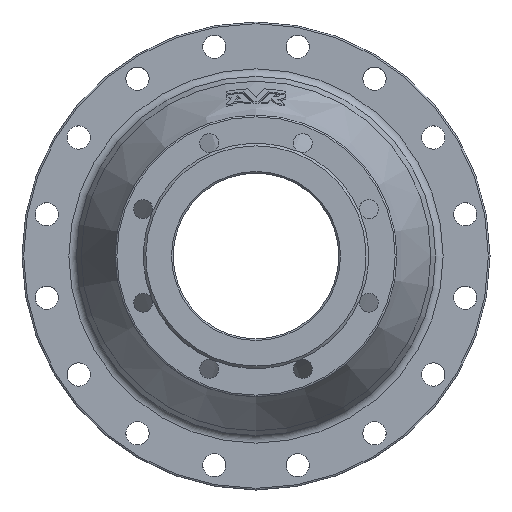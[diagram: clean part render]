
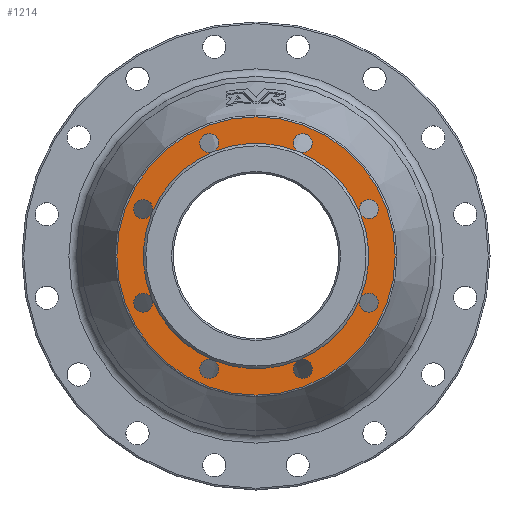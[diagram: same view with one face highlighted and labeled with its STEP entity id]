
A CAD part, left-side view. The second image highlights one B-rep face of the part: STEP entity #1214.
In plain terms, the highlighted planar face has unit normal (-1, 0, 0).
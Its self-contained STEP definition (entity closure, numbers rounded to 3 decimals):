
#25 = DIRECTION ( 'NONE',  ( 0., 0., -1. ) ) ;
#55 = CARTESIAN_POINT ( 'NONE',  ( 3., 0., 0. ) ) ;
#76 = CARTESIAN_POINT ( 'NONE',  ( 3., 136.272, -56.446 ) ) ;
#97 = AXIS2_PLACEMENT_3D ( 'NONE', #55, #1060, #2074 ) ;
#125 = VERTEX_POINT ( 'NONE', #3068 ) ;
#131 = DIRECTION ( 'NONE',  ( -1., 0., 0. ) ) ;
#137 = EDGE_CURVE ( 'NONE', #125, #125, #2382, .T. ) ;
#165 = DIRECTION ( 'NONE',  ( -1., 0., 0. ) ) ;
#218 = VERTEX_POINT ( 'NONE', #1384 ) ;
#232 = ORIENTED_EDGE ( 'NONE', *, *, #1318, .T. ) ;
#245 = EDGE_CURVE ( 'NONE', #1006, #1006, #2228, .T. ) ;
#248 = DIRECTION ( 'NONE',  ( -1., 0., 0. ) ) ;
#259 = DIRECTION ( 'NONE',  ( 1., 0., 0. ) ) ;
#285 = EDGE_CURVE ( 'NONE', #850, #218, #1400, .T. ) ;
#339 = EDGE_CURVE ( 'NONE', #1452, #1452, #1556, .T. ) ;
#344 = DIRECTION ( 'NONE',  ( 0., 0., 1. ) ) ;
#359 = CARTESIAN_POINT ( 'NONE',  ( 3., 0., 0. ) ) ;
#365 = AXIS2_PLACEMENT_3D ( 'NONE', #3055, #778, #1049 ) ;
#368 = AXIS2_PLACEMENT_3D ( 'NONE', #359, #656, #344 ) ;
#375 = CARTESIAN_POINT ( 'NONE',  ( 3., -136.272, -56.446 ) ) ;
#401 = AXIS2_PLACEMENT_3D ( 'NONE', #2546, #1000, #1044 ) ;
#432 = CARTESIAN_POINT ( 'NONE',  ( 3., -125.648, 52.045 ) ) ;
#542 = DIRECTION ( 'NONE',  ( 1., 0., 0. ) ) ;
#565 = CARTESIAN_POINT ( 'NONE',  ( 3., 0., 0. ) ) ;
#582 = AXIS2_PLACEMENT_3D ( 'NONE', #3096, #542, #1302 ) ;
#622 = DIRECTION ( 'NONE',  ( 0., 0., 1. ) ) ;
#642 = DIRECTION ( 'NONE',  ( -1., 0., 0. ) ) ;
#656 = DIRECTION ( 'NONE',  ( -1., 0., 0. ) ) ;
#711 = AXIS2_PLACEMENT_3D ( 'NONE', #2080, #2129, #1833 ) ;
#778 = DIRECTION ( 'NONE',  ( 1., 0., 0. ) ) ;
#817 = EDGE_CURVE ( 'NONE', #1518, #1518, #2014, .T. ) ;
#828 = ORIENTED_EDGE ( 'NONE', *, *, #245, .T. ) ;
#829 = DIRECTION ( 'NONE',  ( 0., 0., -1. ) ) ;
#850 = VERTEX_POINT ( 'NONE', #1386 ) ;
#895 = CIRCLE ( 'NONE', #365, 11.5 ) ;
#914 = EDGE_CURVE ( 'NONE', #1001, #1001, #1688, .T. ) ;
#928 = CIRCLE ( 'NONE', #2616, 11.5 ) ;
#958 = AXIS2_PLACEMENT_3D ( 'NONE', #76, #1083, #829 ) ;
#977 = DIRECTION ( 'NONE',  ( -1., 0., 0. ) ) ;
#1000 = DIRECTION ( 'NONE',  ( -1., 0., 0. ) ) ;
#1001 = VERTEX_POINT ( 'NONE', #2232 ) ;
#1006 = VERTEX_POINT ( 'NONE', #2490 ) ;
#1044 = DIRECTION ( 'NONE',  ( 0., 0., 1. ) ) ;
#1049 = DIRECTION ( 'NONE',  ( 0., 0., -1. ) ) ;
#1060 = DIRECTION ( 'NONE',  ( -1., 0., 0. ) ) ;
#1066 = AXIS2_PLACEMENT_3D ( 'NONE', #1198, #259, #3030 ) ;
#1083 = DIRECTION ( 'NONE',  ( 1., 0., 0. ) ) ;
#1161 = DIRECTION ( 'NONE',  ( 1., 0., 0. ) ) ;
#1198 = CARTESIAN_POINT ( 'NONE',  ( 3., -56.446, 136.272 ) ) ;
#1214 = ADVANCED_FACE ( 'NONE', ( #1281, #2054 ), #2039, .F. ) ;
#1220 = CIRCLE ( 'NONE', #2123, 136. ) ;
#1250 = EDGE_CURVE ( 'NONE', #2985, #1006, #2794, .T. ) ;
#1261 = AXIS2_PLACEMENT_3D ( 'NONE', #1407, #1161, #2399 ) ;
#1281 = FACE_OUTER_BOUND ( 'NONE', #1961, .T. ) ;
#1302 = DIRECTION ( 'NONE',  ( 0., 0., -1. ) ) ;
#1318 = EDGE_CURVE ( 'NONE', #850, #850, #1362, .T. ) ;
#1346 = CARTESIAN_POINT ( 'NONE',  ( 3., 52.045, -125.648 ) ) ;
#1362 = CIRCLE ( 'NONE', #1261, 11.5 ) ;
#1373 = ORIENTED_EDGE ( 'NONE', *, *, #1250, .F. ) ;
#1384 = CARTESIAN_POINT ( 'NONE',  ( 3., 125.648, 52.045 ) ) ;
#1386 = CARTESIAN_POINT ( 'NONE',  ( 3., 52.045, 125.648 ) ) ;
#1400 = CIRCLE ( 'NONE', #401, 136. ) ;
#1401 = CARTESIAN_POINT ( 'NONE',  ( 3., 56.446, -136.272 ) ) ;
#1402 = CARTESIAN_POINT ( 'NONE',  ( 3., 0., 0. ) ) ;
#1407 = CARTESIAN_POINT ( 'NONE',  ( 3., 56.446, 136.272 ) ) ;
#1441 = EDGE_CURVE ( 'NONE', #1518, #2097, #2318, .T. ) ;
#1452 = VERTEX_POINT ( 'NONE', #2538 ) ;
#1457 = ORIENTED_EDGE ( 'NONE', *, *, #2369, .F. ) ;
#1508 = CARTESIAN_POINT ( 'NONE',  ( 3., 0., 0. ) ) ;
#1516 = CARTESIAN_POINT ( 'NONE',  ( 3., -52.045, 125.648 ) ) ;
#1518 = VERTEX_POINT ( 'NONE', #432 ) ;
#1542 = ORIENTED_EDGE ( 'NONE', *, *, #1895, .T. ) ;
#1556 = CIRCLE ( 'NONE', #2252, 168. ) ;
#1649 = DIRECTION ( 'NONE',  ( 0., 0., -1. ) ) ;
#1688 = CIRCLE ( 'NONE', #3167, 11.5 ) ;
#1720 = DIRECTION ( 'NONE',  ( 0., 0., 1. ) ) ;
#1753 = ORIENTED_EDGE ( 'NONE', *, *, #817, .T. ) ;
#1757 = CIRCLE ( 'NONE', #2174, 136. ) ;
#1794 = DIRECTION ( 'NONE',  ( 1., 0., 0. ) ) ;
#1803 = CIRCLE ( 'NONE', #3236, 136. ) ;
#1805 = EDGE_CURVE ( 'NONE', #1001, #1518, #3166, .T. ) ;
#1833 = DIRECTION ( 'NONE',  ( 0., 0., -1. ) ) ;
#1885 = CARTESIAN_POINT ( 'NONE',  ( 3., 0., 0. ) ) ;
#1895 = EDGE_CURVE ( 'NONE', #2985, #2985, #928, .T. ) ;
#1915 = ORIENTED_EDGE ( 'NONE', *, *, #914, .T. ) ;
#1930 = EDGE_LOOP ( 'NONE', ( #1457, #2667, #2351, #1753, #2445, #1915, #2795, #828, #1373, #1542, #3237, #2028, #2678, #2314, #3255, #232 ) ) ;
#1961 = EDGE_LOOP ( 'NONE', ( #2990 ) ) ;
#2014 = CIRCLE ( 'NONE', #582, 11.5 ) ;
#2028 = ORIENTED_EDGE ( 'NONE', *, *, #137, .T. ) ;
#2039 = PLANE ( 'NONE',  #2105 ) ;
#2054 = FACE_BOUND ( 'NONE', #1930, .T. ) ;
#2061 = AXIS2_PLACEMENT_3D ( 'NONE', #1508, #977, #2748 ) ;
#2071 = CIRCLE ( 'NONE', #1066, 11.5 ) ;
#2073 = DIRECTION ( 'NONE',  ( -1., 0., 0. ) ) ;
#2074 = DIRECTION ( 'NONE',  ( 0., 0., 1. ) ) ;
#2080 = CARTESIAN_POINT ( 'NONE',  ( 3., -56.446, -136.272 ) ) ;
#2097 = VERTEX_POINT ( 'NONE', #1516 ) ;
#2105 = AXIS2_PLACEMENT_3D ( 'NONE', #2834, #1794, #3066 ) ;
#2123 = AXIS2_PLACEMENT_3D ( 'NONE', #1885, #642, #622 ) ;
#2129 = DIRECTION ( 'NONE',  ( 1., 0., 0. ) ) ;
#2174 = AXIS2_PLACEMENT_3D ( 'NONE', #2281, #248, #1720 ) ;
#2228 = CIRCLE ( 'NONE', #711, 11.5 ) ;
#2232 = CARTESIAN_POINT ( 'NONE',  ( 3., -125.648, -52.045 ) ) ;
#2252 = AXIS2_PLACEMENT_3D ( 'NONE', #565, #2073, #25 ) ;
#2279 = CIRCLE ( 'NONE', #2539, 136. ) ;
#2281 = CARTESIAN_POINT ( 'NONE',  ( 3., 0., 0. ) ) ;
#2314 = ORIENTED_EDGE ( 'NONE', *, *, #3074, .T. ) ;
#2318 = CIRCLE ( 'NONE', #2061, 136. ) ;
#2350 = EDGE_CURVE ( 'NONE', #125, #2985, #1803, .T. ) ;
#2351 = ORIENTED_EDGE ( 'NONE', *, *, #1441, .F. ) ;
#2369 = EDGE_CURVE ( 'NONE', #2097, #850, #2279, .T. ) ;
#2382 = CIRCLE ( 'NONE', #958, 11.5 ) ;
#2387 = EDGE_CURVE ( 'NONE', #218, #125, #1220, .T. ) ;
#2399 = DIRECTION ( 'NONE',  ( 0., 0., -1. ) ) ;
#2410 = DIRECTION ( 'NONE',  ( 1., 0., 0. ) ) ;
#2426 = DIRECTION ( 'NONE',  ( 0., 0., 1. ) ) ;
#2445 = ORIENTED_EDGE ( 'NONE', *, *, #1805, .F. ) ;
#2490 = CARTESIAN_POINT ( 'NONE',  ( 3., -52.045, -125.648 ) ) ;
#2506 = EDGE_CURVE ( 'NONE', #1006, #1001, #1757, .T. ) ;
#2538 = CARTESIAN_POINT ( 'NONE',  ( 3., 0., -168. ) ) ;
#2539 = AXIS2_PLACEMENT_3D ( 'NONE', #1402, #165, #2426 ) ;
#2546 = CARTESIAN_POINT ( 'NONE',  ( 3., 0., 0. ) ) ;
#2616 = AXIS2_PLACEMENT_3D ( 'NONE', #1401, #2410, #2924 ) ;
#2667 = ORIENTED_EDGE ( 'NONE', *, *, #2800, .T. ) ;
#2678 = ORIENTED_EDGE ( 'NONE', *, *, #2387, .F. ) ;
#2748 = DIRECTION ( 'NONE',  ( 0., 0., 1. ) ) ;
#2794 = CIRCLE ( 'NONE', #97, 136. ) ;
#2795 = ORIENTED_EDGE ( 'NONE', *, *, #2506, .F. ) ;
#2800 = EDGE_CURVE ( 'NONE', #2097, #2097, #2071, .T. ) ;
#2834 = CARTESIAN_POINT ( 'NONE',  ( 3., 136., 0. ) ) ;
#2910 = CARTESIAN_POINT ( 'NONE',  ( 3., 0., 0. ) ) ;
#2924 = DIRECTION ( 'NONE',  ( 0., 0., -1. ) ) ;
#2961 = DIRECTION ( 'NONE',  ( 0., 0., 1. ) ) ;
#2985 = VERTEX_POINT ( 'NONE', #1346 ) ;
#2990 = ORIENTED_EDGE ( 'NONE', *, *, #339, .T. ) ;
#3030 = DIRECTION ( 'NONE',  ( 0., 0., -1. ) ) ;
#3055 = CARTESIAN_POINT ( 'NONE',  ( 3., 136.272, 56.446 ) ) ;
#3066 = DIRECTION ( 'NONE',  ( 0., 0., -1. ) ) ;
#3068 = CARTESIAN_POINT ( 'NONE',  ( 3., 125.648, -52.045 ) ) ;
#3074 = EDGE_CURVE ( 'NONE', #218, #218, #895, .T. ) ;
#3096 = CARTESIAN_POINT ( 'NONE',  ( 3., -136.272, 56.446 ) ) ;
#3145 = DIRECTION ( 'NONE',  ( 1., 0., 0. ) ) ;
#3166 = CIRCLE ( 'NONE', #368, 136. ) ;
#3167 = AXIS2_PLACEMENT_3D ( 'NONE', #375, #3145, #1649 ) ;
#3236 = AXIS2_PLACEMENT_3D ( 'NONE', #2910, #131, #2961 ) ;
#3237 = ORIENTED_EDGE ( 'NONE', *, *, #2350, .F. ) ;
#3255 = ORIENTED_EDGE ( 'NONE', *, *, #285, .F. ) ;
